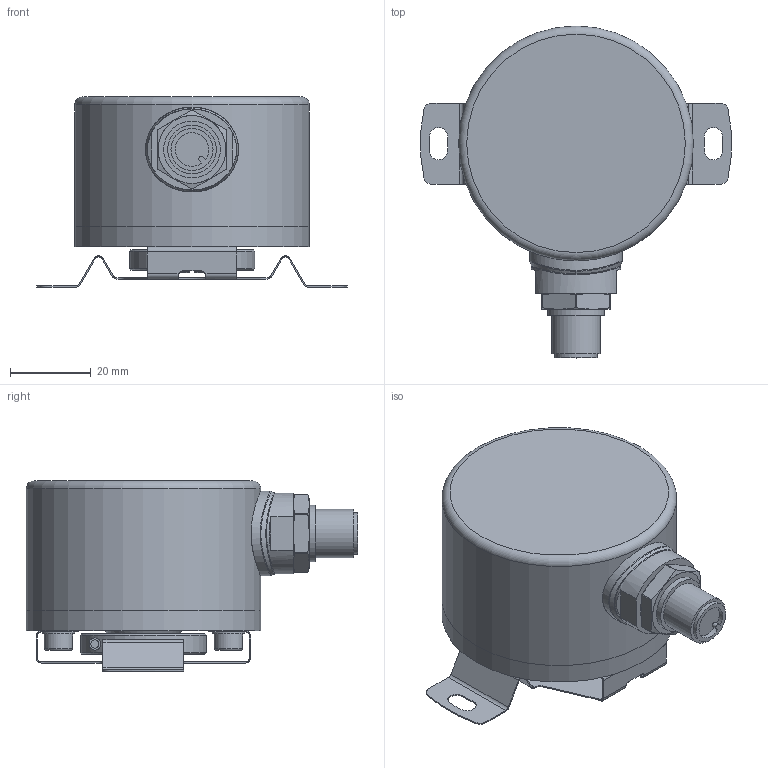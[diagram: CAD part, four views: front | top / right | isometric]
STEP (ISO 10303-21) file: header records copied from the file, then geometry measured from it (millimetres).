
FILE_DESCRIPTION( ( 'Unknown' ), '1' );
FILE_NAME( '//baumernet.org/ch01d/PJ-RD-MC/10601626_MAGRES_4/20__Produktmanagement/Datenblatt/Vereinfachte Modelle und DAB-Zeichnungen/November 2016/58/Hohlwelle/ø12/EAM580-BAC.xxxx.xxxxx.A_M12.stp', 'Unknown', ( 'Unknown' ), ( 'Unknown' ), 'PSStep 15.0.49', 'Unknown', ' ' );
FILE_SCHEMA( ( 'AUTOMOTIVE_DESIGN { 1 0 10303 214 1 1 1 1 }' ) );
Length unit declared in the file: millimetre
Products named in the file (16): Stecker M12; 11099322_vereinfacht; 11099323_vereinfacht; 6Kant Mutter M14; 58 H BoMo 12 vereinfacht; 11158182_vereinfacht; 11158189 vereinfacht; 11116324; 126053; 58 Federplatte mit Schrauben; 11115506; 110695; 116875; EAM580-BNC.xxxx.xxxxx.A_M12; 11161007_vereinfacht; Assem1
Assembly tree (17 placements, depth 4):
  Assem1
    58 Federplatte mit Schrauben
      11115506
      110695  x2
      116875  x2
    EAM580-BNC.xxxx.xxxxx.A_M12
      11161007_vereinfacht
      58 H BoMo 12 vereinfacht
        11158182_vereinfacht
        11158189 vereinfacht
        11116324
        126053
      Stecker M12
        11099322_vereinfacht
        11099323_vereinfacht
        6Kant Mutter M14
Bounding box: 76.79 x 82 x 47 mm (x, y, z)
Surface area: 38419.7 mm2 (no closed solid volume)
Topology: 0 solids, 303 shells, 303 faces, 1462 edges, 1413 vertices
Faces by surface type: plane 148, cylinder 120, cone 16, torus 11, bspline 6, extrusion 2
Full cylindrical faces by diameter (mm): 2.013 x1, 2.5 x1, 2.6 x1, 3.242 x8, 4 x2, 4.3 x4, 4.5 x1, 7 x2, 8 x2, 10.4 x1, 12 x2, 12.522 x1, 13.5 x1, 14 x2, 19 x2, 20 x1, 56 x2, 58 x2
Entity records: 21784 total; most frequent: CARTESIAN_POINT 8932, DIRECTION 2322, ORIENTED_EDGE 1344, EDGE_CURVE 1344, VERTEX_POINT 1344, AXIS2_PLACEMENT_3D 832, VECTOR 658, LINE 656
